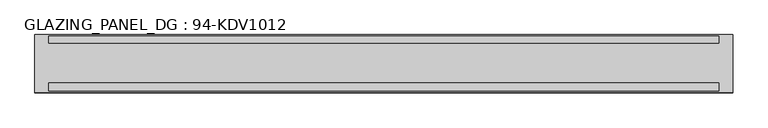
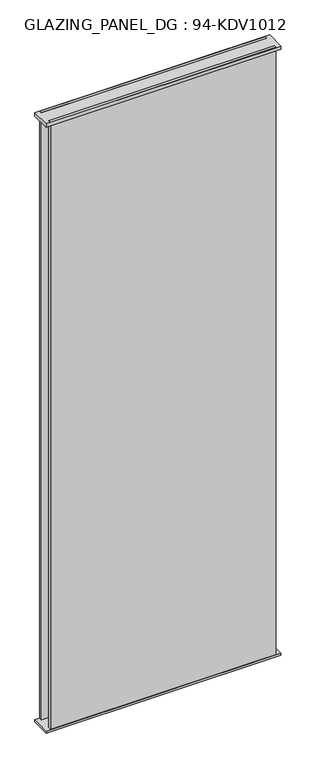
"""IFC4 building model written with IfcOpenShell, lengths in millimetres: plate geometry, GLAZING_PANEL_DG : 94-KDV1012."""

from ifc_helpers import new_model, si_unit, frame, origin, origin_with_axes, place, context, project, spatial, polyline, outline, extrude, source, transform, mapped, element, save


def glazing_panel_dg_94_kdv1012_681713af(model_context):
    return source(origin(), model_context, "Body", "SweptSolid", [
        extrude(outline(polyline([(480.0, 39.5), (480.0, 29.5), (-480.0, 29.5), (-480.0, 39.5), (480.0, 39.5)])), origin_with_axes(), (0.0, 0.0, 1.0), 2739.0),
        extrude(outline(polyline([(480.0, -27.5), (480.0, -39.5), (-480.0, -39.5), (-480.0, -27.5), (480.0, -27.5)])), origin_with_axes(), (0.0, 0.0, 1.0), 2739.0),
        extrude(outline(polyline([(500.0, -41.5), (-500.0, -41.5), (-500.0, 41.5), (500.0, 41.5), (500.0, -41.5)])), frame((0.0, 0.0, 2724.0), z_axis=(0.0, 0.0, 1.0), x_axis=(1.0, 0.0, 0.0)), (0.0, 0.0, 1.0), 15.0),
        extrude(outline(polyline([(500.0, 41.5), (500.0, -41.5), (-500.0, -41.5), (-500.0, 41.5), (500.0, 41.5)])), origin_with_axes(), (0.0, 0.0, 1.0), 9.0),
    ])


if __name__ == "__main__":
    model = new_model("IFC4")
    model_context = context("Model", 3, world=origin())
    ifc_project = project(units=[si_unit("LENGTHUNIT", "METRE", prefix="MILLI")], contexts=[model_context])
    site = spatial("IfcSite", under=ifc_project)
    building = spatial("IfcBuilding", under=site)
    placement = place(None, origin())
    glazing_panel_dg_94_kdv1012_shape = glazing_panel_dg_94_kdv1012_681713af(model_context)
    element("IfcPlate", 1, ObjectType="GLAZING_PANEL_DG : 94-KDV1012", at=placement, inside=building, context=model_context, shape_type="MappedRepresentation", body=[
        mapped(glazing_panel_dg_94_kdv1012_shape, transform((0.0, 0.0, 0.0), x_axis=(1.0, 0.0, 0.0), y_axis=(0.0, 1.0, 0.0), z_axis=(0.0, 0.0, 1.0))),
    ])
    save(model, "model.ifc")
